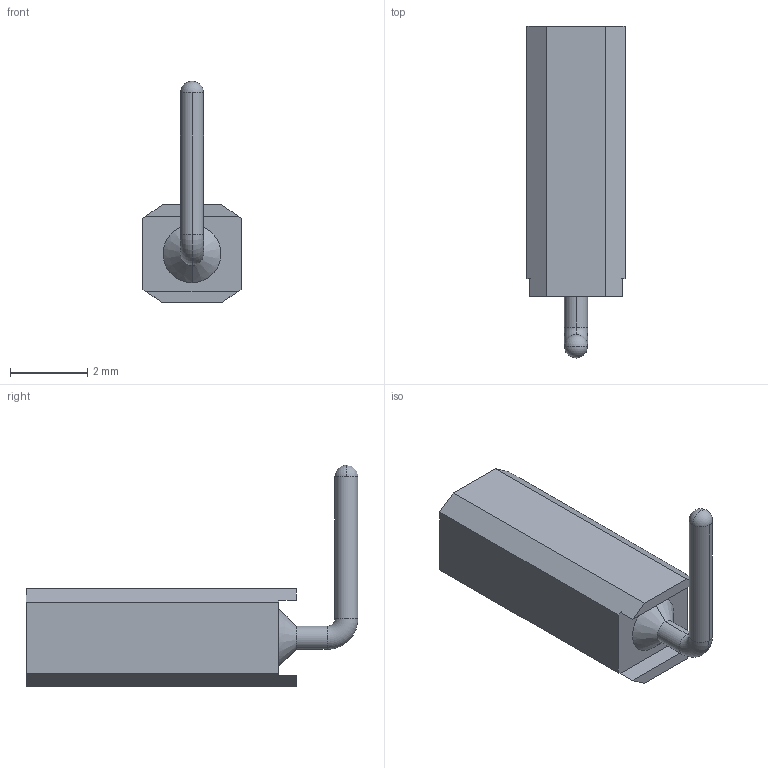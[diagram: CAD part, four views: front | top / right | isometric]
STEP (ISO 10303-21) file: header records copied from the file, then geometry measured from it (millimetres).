
FILE_DESCRIPTION (( 'STEP AP203' ), '1' );
FILE_NAME ('PM254-1-01-W-7.0-XX-C (2.54 单排 圆针 弯排母 塑高7.0-HCTL).STEP', '2026-03-21T06:52:39', ( '' ), ( '' ), 'SwSTEP 2.0', 'SolidWorks 2025', '' );
FILE_SCHEMA (( 'CONFIG_CONTROL_DESIGN' ));
Length unit declared in the file: millimetre
Products named in the file (1): PM254-1-01-W-7.0-XX-C (2.54 单排 圆针 弯排母 塑高7.0-HCTL)
Bounding box: 2.54 x 8.6 x 5.74 mm (x, y, z)
Volume: 41.9 mm3; surface area: 99.8 mm2
Topology: 1 solids, 1 shells, 33 faces, 78 edges, 49 vertices
Faces by surface type: plane 17, cylinder 8, cone 4, sphere 2, torus 2
Entity records: 1015 total; most frequent: DIRECTION 172, CARTESIAN_POINT 159, ORIENTED_EDGE 152, EDGE_CURVE 76, AXIS2_PLACEMENT_3D 62, VERTEX_POINT 49, LINE 48, VECTOR 48
